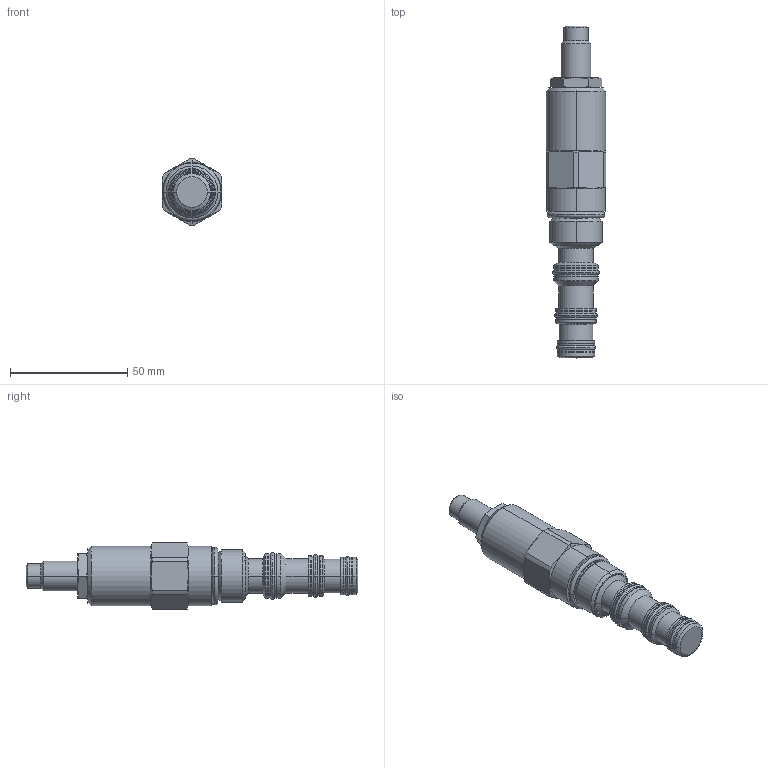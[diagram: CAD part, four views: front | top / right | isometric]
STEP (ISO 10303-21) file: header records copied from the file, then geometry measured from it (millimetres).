
FILE_DESCRIPTION((''),'2;1');
FILE_NAME('5424300_SW0002','2009-02-04T',('jcs'),(''),'PRO/ENGINEER BY PARAMETRIC TECHNOLOGY CORPORATION, 2008010','PRO/ENGINEER BY PARAMETRIC TECHNOLOGY CORPORATION, 2008010','');
FILE_SCHEMA(('CONFIG_CONTROL_DESIGN'));
Length unit declared in the file: inch
Products named in the file (1): 5424300_SW0002
Bounding box: 25.4 x 141.38 x 28.19 mm (x, y, z)
Volume: 45884.9 mm3; surface area: 13205 mm2
Topology: 5 solids, 5 shells, 255 faces, 548 edges, 321 vertices
Faces by surface type: cylinder 78, plane 53, torus 46, cone 46, revolution 32
Entity records: 7770 total; most frequent: CARTESIAN_POINT 2134, DIRECTION 1252, ORIENTED_EDGE 1092, EDGE_CURVE 546, AXIS2_PLACEMENT_3D 537, VERTEX_POINT 321, CIRCLE 314, EDGE_LOOP 283
